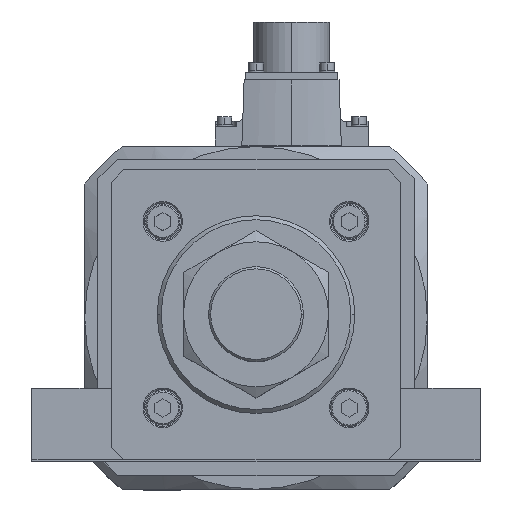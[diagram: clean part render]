
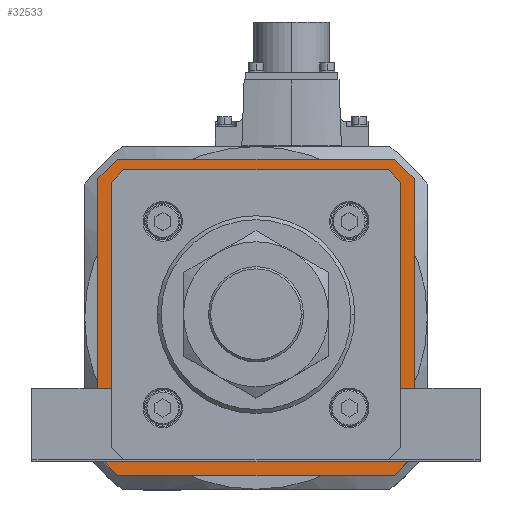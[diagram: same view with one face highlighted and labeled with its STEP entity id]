
A CAD part, top view. The second image highlights one B-rep face of the part: STEP entity #32533.
In plain terms, the highlighted planar face has unit normal (0, 0, 1).
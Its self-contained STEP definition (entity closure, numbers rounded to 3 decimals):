
#49 = VERTEX_POINT ( 'NONE', #11636 ) ;
#145 = VERTEX_POINT ( 'NONE', #35589 ) ;
#377 = FACE_OUTER_BOUND ( 'NONE', #30757, .T. ) ;
#1321 = VECTOR ( 'NONE', #29527, 1000. ) ;
#1506 = EDGE_CURVE ( 'NONE', #18418, #19872, #1738, .T. ) ;
#1525 = VECTOR ( 'NONE', #10158, 1000. ) ;
#1738 = LINE ( 'NONE', #30553, #27264 ) ;
#1865 = ORIENTED_EDGE ( 'NONE', *, *, #9329, .F. ) ;
#1886 = ORIENTED_EDGE ( 'NONE', *, *, #35274, .T. ) ;
#1890 = PLANE ( 'NONE',  #23990 ) ;
#2354 = CARTESIAN_POINT ( 'NONE',  ( 52.5, -60., -119. ) ) ;
#2704 = LINE ( 'NONE', #9299, #1321 ) ;
#4150 = VECTOR ( 'NONE', #14809, 1000. ) ;
#4275 = EDGE_CURVE ( 'NONE', #145, #29161, #11981, .T. ) ;
#4295 = EDGE_CURVE ( 'NONE', #5908, #5693, #16085, .T. ) ;
#4577 = VECTOR ( 'NONE', #31900, 1000. ) ;
#4751 = EDGE_CURVE ( 'NONE', #9963, #18418, #35173, .T. ) ;
#5511 = CARTESIAN_POINT ( 'NONE',  ( -60., -52.5, -119. ) ) ;
#5662 = CARTESIAN_POINT ( 'NONE',  ( 52.5, 60., -119. ) ) ;
#5693 = VERTEX_POINT ( 'NONE', #32014 ) ;
#5877 = CARTESIAN_POINT ( 'NONE',  ( 60., -52.5, -119. ) ) ;
#5908 = VERTEX_POINT ( 'NONE', #34923 ) ;
#6299 = FACE_BOUND ( 'NONE', #8412, .T. ) ;
#7702 = CARTESIAN_POINT ( 'NONE',  ( 49.593, 53.5, -119. ) ) ;
#7984 = ORIENTED_EDGE ( 'NONE', *, *, #29723, .T. ) ;
#7993 = VERTEX_POINT ( 'NONE', #8510 ) ;
#8312 = VECTOR ( 'NONE', #35393, 1000. ) ;
#8412 = EDGE_LOOP ( 'NONE', ( #22828, #13374, #36579, #14826, #7984, #24226, #37013, #1886 ) ) ;
#8510 = CARTESIAN_POINT ( 'NONE',  ( -52.5, -60., -119. ) ) ;
#8935 = CARTESIAN_POINT ( 'NONE',  ( 52.5, 60., -119. ) ) ;
#9299 = CARTESIAN_POINT ( 'NONE',  ( 49.8, 53.5, -119. ) ) ;
#9329 = EDGE_CURVE ( 'NONE', #5693, #35569, #35236, .T. ) ;
#9896 = VERTEX_POINT ( 'NONE', #37237 ) ;
#9963 = VERTEX_POINT ( 'NONE', #32128 ) ;
#10158 = DIRECTION ( 'NONE',  ( 0., -1., 0. ) ) ;
#10293 = DIRECTION ( 'NONE',  ( -0.707, -0.707, 0. ) ) ;
#10389 = DIRECTION ( 'NONE',  ( 1., 0., 0. ) ) ;
#10686 = EDGE_CURVE ( 'NONE', #28875, #5908, #30560, .T. ) ;
#11080 = CARTESIAN_POINT ( 'NONE',  ( -60., 52.5, -119. ) ) ;
#11458 = LINE ( 'NONE', #11962, #33812 ) ;
#11636 = CARTESIAN_POINT ( 'NONE',  ( 49.593, -53.5, -119. ) ) ;
#11962 = CARTESIAN_POINT ( 'NONE',  ( -52.5, -60., -119. ) ) ;
#11981 = LINE ( 'NONE', #19363, #1525 ) ;
#13028 = CARTESIAN_POINT ( 'NONE',  ( 53.646, 49.446, -119. ) ) ;
#13082 = CARTESIAN_POINT ( 'NONE',  ( -52.5, 60., -119. ) ) ;
#13374 = ORIENTED_EDGE ( 'NONE', *, *, #29285, .T. ) ;
#13640 = DIRECTION ( 'NONE',  ( -0.707, -0.707, 0. ) ) ;
#14402 = DIRECTION ( 'NONE',  ( 1., 0., 0. ) ) ;
#14809 = DIRECTION ( 'NONE',  ( 0.707, -0.707, 0. ) ) ;
#14826 = ORIENTED_EDGE ( 'NONE', *, *, #24791, .T. ) ;
#16085 = LINE ( 'NONE', #13082, #36598 ) ;
#16374 = DIRECTION ( 'NONE',  ( 0., 0., 1. ) ) ;
#16465 = ORIENTED_EDGE ( 'NONE', *, *, #27193, .F. ) ;
#17132 = LINE ( 'NONE', #28417, #22604 ) ;
#17338 = DIRECTION ( 'NONE',  ( 0., 1., 0. ) ) ;
#18418 = VERTEX_POINT ( 'NONE', #5877 ) ;
#18438 = VERTEX_POINT ( 'NONE', #23471 ) ;
#18825 = VECTOR ( 'NONE', #13640, 1000. ) ;
#19363 = CARTESIAN_POINT ( 'NONE',  ( 53.5, -49.8, -119. ) ) ;
#19498 = EDGE_CURVE ( 'NONE', #36148, #18438, #33746, .T. ) ;
#19872 = VERTEX_POINT ( 'NONE', #30723 ) ;
#20204 = EDGE_CURVE ( 'NONE', #9896, #33185, #2704, .T. ) ;
#20357 = CARTESIAN_POINT ( 'NONE',  ( 60., 52.5, -119. ) ) ;
#20413 = LINE ( 'NONE', #36816, #36805 ) ;
#20473 = CARTESIAN_POINT ( 'NONE',  ( -53.646, -49.446, -119. ) ) ;
#20660 = DIRECTION ( 'NONE',  ( -0.707, 0.707, 0. ) ) ;
#21019 = VECTOR ( 'NONE', #24911, 1000. ) ;
#21623 = CARTESIAN_POINT ( 'NONE',  ( -53.5, 49.593, -119. ) ) ;
#22604 = VECTOR ( 'NONE', #28052, 1000. ) ;
#22828 = ORIENTED_EDGE ( 'NONE', *, *, #20204, .T. ) ;
#22967 = DIRECTION ( 'NONE',  ( 0., 1., 0. ) ) ;
#23471 = CARTESIAN_POINT ( 'NONE',  ( -53.5, -49.593, -119. ) ) ;
#23560 = CARTESIAN_POINT ( 'NONE',  ( -53.5, 49.8, -119. ) ) ;
#23990 = AXIS2_PLACEMENT_3D ( 'NONE', #25559, #16374, #10389 ) ;
#24029 = CARTESIAN_POINT ( 'NONE',  ( -49.593, -53.5, -119. ) ) ;
#24226 = ORIENTED_EDGE ( 'NONE', *, *, #19498, .T. ) ;
#24791 = EDGE_CURVE ( 'NONE', #29161, #49, #26541, .T. ) ;
#24911 = DIRECTION ( 'NONE',  ( 0.707, -0.707, 0. ) ) ;
#25144 = VECTOR ( 'NONE', #22967, 1000. ) ;
#25170 = ORIENTED_EDGE ( 'NONE', *, *, #1506, .F. ) ;
#25337 = ORIENTED_EDGE ( 'NONE', *, *, #4295, .F. ) ;
#25559 = CARTESIAN_POINT ( 'NONE',  ( 0., 0., -119. ) ) ;
#26541 = LINE ( 'NONE', #37464, #18825 ) ;
#26688 = VECTOR ( 'NONE', #17338, 1000. ) ;
#26754 = LINE ( 'NONE', #2354, #31746 ) ;
#27193 = EDGE_CURVE ( 'NONE', #7993, #28875, #11458, .T. ) ;
#27264 = VECTOR ( 'NONE', #10293, 1000. ) ;
#27829 = LINE ( 'NONE', #13028, #21019 ) ;
#28052 = DIRECTION ( 'NONE',  ( 0.707, 0.707, 0. ) ) ;
#28066 = LINE ( 'NONE', #23560, #26688 ) ;
#28090 = VERTEX_POINT ( 'NONE', #21623 ) ;
#28417 = CARTESIAN_POINT ( 'NONE',  ( -49.446, 53.646, -119. ) ) ;
#28875 = VERTEX_POINT ( 'NONE', #5511 ) ;
#29161 = VERTEX_POINT ( 'NONE', #30611 ) ;
#29184 = LINE ( 'NONE', #29337, #4150 ) ;
#29285 = EDGE_CURVE ( 'NONE', #33185, #145, #27829, .T. ) ;
#29337 = CARTESIAN_POINT ( 'NONE',  ( 60., 52.5, -119. ) ) ;
#29527 = DIRECTION ( 'NONE',  ( 1., 0., 0. ) ) ;
#29723 = EDGE_CURVE ( 'NONE', #49, #36148, #20413, .T. ) ;
#30053 = ORIENTED_EDGE ( 'NONE', *, *, #4751, .F. ) ;
#30149 = ORIENTED_EDGE ( 'NONE', *, *, #10686, .F. ) ;
#30553 = CARTESIAN_POINT ( 'NONE',  ( 60., -52.5, -119. ) ) ;
#30560 = LINE ( 'NONE', #11080, #25144 ) ;
#30611 = CARTESIAN_POINT ( 'NONE',  ( 53.5, -49.593, -119. ) ) ;
#30665 = VECTOR ( 'NONE', #14402, 1000. ) ;
#30723 = CARTESIAN_POINT ( 'NONE',  ( 52.5, -60., -119. ) ) ;
#30757 = EDGE_LOOP ( 'NONE', ( #1865, #25337, #30149, #16465, #36192, #25170, #30053, #32072 ) ) ;
#30828 = EDGE_CURVE ( 'NONE', #19872, #7993, #26754, .T. ) ;
#31109 = DIRECTION ( 'NONE',  ( -1., 0., 0. ) ) ;
#31566 = EDGE_CURVE ( 'NONE', #18438, #28090, #28066, .T. ) ;
#31746 = VECTOR ( 'NONE', #31109, 1000. ) ;
#31900 = DIRECTION ( 'NONE',  ( -0.707, 0.707, 0. ) ) ;
#32014 = CARTESIAN_POINT ( 'NONE',  ( -52.5, 60., -119. ) ) ;
#32072 = ORIENTED_EDGE ( 'NONE', *, *, #37542, .F. ) ;
#32128 = CARTESIAN_POINT ( 'NONE',  ( 60., 52.5, -119. ) ) ;
#32533 = ADVANCED_FACE ( 'NONE', ( #6299, #377 ), #1890, .T. ) ;
#33185 = VERTEX_POINT ( 'NONE', #7702 ) ;
#33350 = DIRECTION ( 'NONE',  ( 0.707, 0.707, 0. ) ) ;
#33746 = LINE ( 'NONE', #20473, #4577 ) ;
#33770 = DIRECTION ( 'NONE',  ( -1., 0., 0. ) ) ;
#33812 = VECTOR ( 'NONE', #20660, 1000. ) ;
#34923 = CARTESIAN_POINT ( 'NONE',  ( -60., 52.5, -119. ) ) ;
#35173 = LINE ( 'NONE', #20357, #8312 ) ;
#35236 = LINE ( 'NONE', #5662, #30665 ) ;
#35274 = EDGE_CURVE ( 'NONE', #28090, #9896, #17132, .T. ) ;
#35393 = DIRECTION ( 'NONE',  ( 0., -1., 0. ) ) ;
#35569 = VERTEX_POINT ( 'NONE', #8935 ) ;
#35589 = CARTESIAN_POINT ( 'NONE',  ( 53.5, 49.593, -119. ) ) ;
#36148 = VERTEX_POINT ( 'NONE', #24029 ) ;
#36192 = ORIENTED_EDGE ( 'NONE', *, *, #30828, .F. ) ;
#36579 = ORIENTED_EDGE ( 'NONE', *, *, #4275, .T. ) ;
#36598 = VECTOR ( 'NONE', #33350, 1000. ) ;
#36805 = VECTOR ( 'NONE', #33770, 1000. ) ;
#36816 = CARTESIAN_POINT ( 'NONE',  ( -49.8, -53.5, -119. ) ) ;
#37013 = ORIENTED_EDGE ( 'NONE', *, *, #31566, .T. ) ;
#37237 = CARTESIAN_POINT ( 'NONE',  ( -49.593, 53.5, -119. ) ) ;
#37464 = CARTESIAN_POINT ( 'NONE',  ( 49.446, -53.646, -119. ) ) ;
#37542 = EDGE_CURVE ( 'NONE', #35569, #9963, #29184, .T. ) ;
